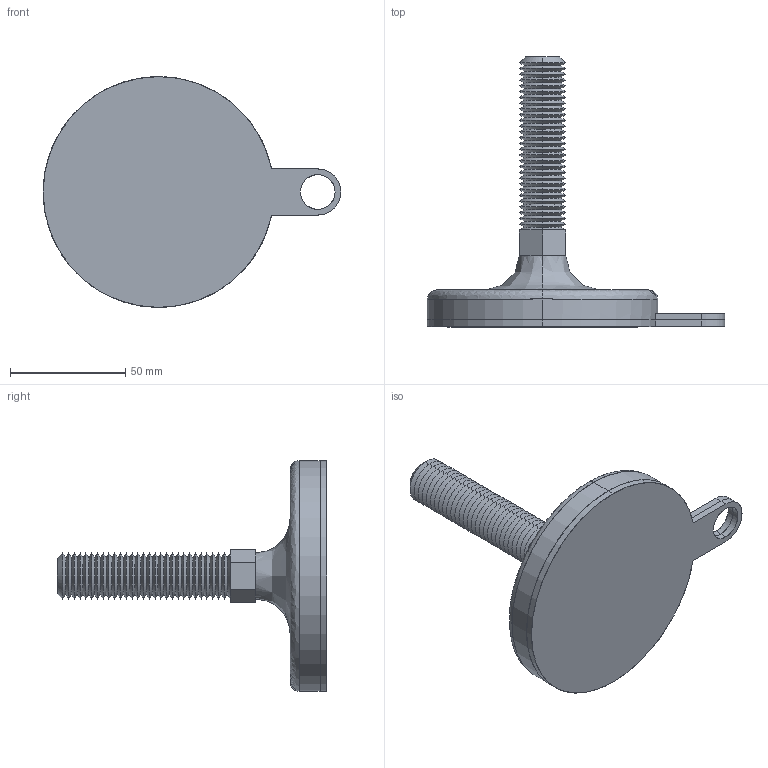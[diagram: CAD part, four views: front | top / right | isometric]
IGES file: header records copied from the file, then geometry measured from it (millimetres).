
Start section: SolidWorks IGES file using analytic representation for surfaces
Global section: file name: C:\Users\liam_\OneDrive\Documents\WORK\Work for WixRoyd\Job Files\J-00026 - Matt Davis CAD - 20191124\04. CAD Drawings\Wixroyd20191124\34704_v2\34704_v2_20191128_IGES\34704.W2004.igs; native system: SolidWorks 2017; preprocessor: SolidWorks 2017; author: liam_; date: 191128.202742; units: millimetre
Bounding box: 129 x 117 x 100 mm (x, y, z)
Surface area: 47600.8 mm2 (no closed solid volume)
Topology: 0 solids, 0 shells, 161 faces, 1276 edges, 1276 vertices
Faces by surface type: revolution 129, bspline 32
